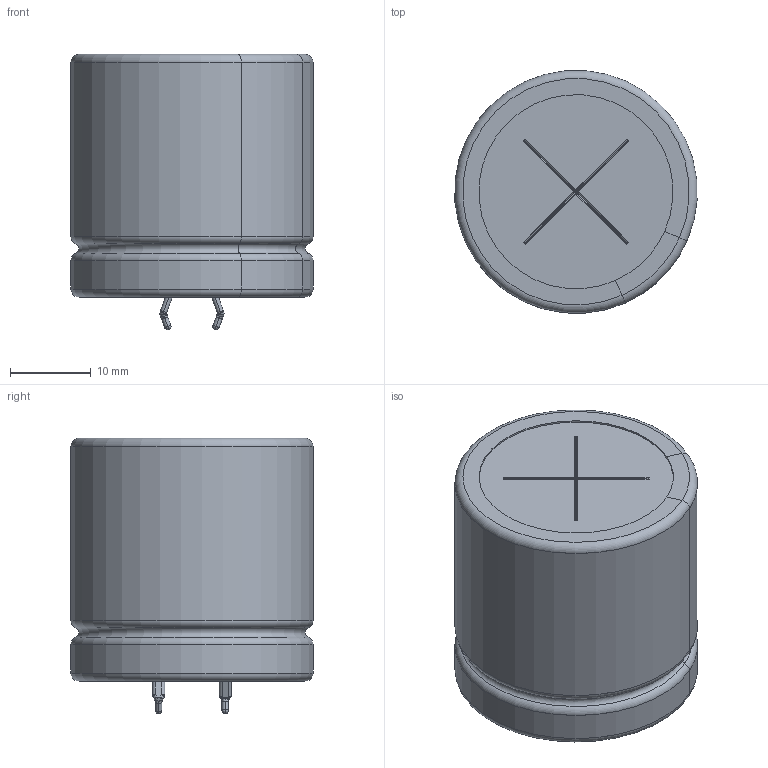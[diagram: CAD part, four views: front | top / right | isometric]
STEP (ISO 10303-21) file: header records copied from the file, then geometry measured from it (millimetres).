
FILE_DESCRIPTION(/* description */ (''),/* implementation_level */ '2;1');
FILE_NAME(/* name */ '30x30_Snap.stp',/* time_stamp */ '2017-09-11T15:54:32+09:00',/* author */ (''),/* organization */ (''),/* preprocessor_version */ 'ST-DEVELOPER v16',/* originating_system */ 'SIEMENS PLM Software NX 11.0',/* authorisation */ '');
FILE_SCHEMA (('AUTOMOTIVE_DESIGN { 1 0 10303 214 3 1 1 1 }'));
Length unit declared in the file: millimetre
Products named in the file (1): 30x30_Snap_0
Bounding box: 29.91 x 29.91 x 34.02 mm (x, y, z)
Volume: 20872.4 mm3; surface area: 10909.6 mm2
Topology: 5 solids, 5 shells, 208 faces, 523 edges, 310 vertices
Faces by surface type: cylinder 76, plane 75, torus 25, sphere 20, bspline 12
Full cylindrical faces by diameter (mm): 4 x2, 29.6 x2
Entity records: 6789 total; most frequent: CARTESIAN_POINT 1265, DIRECTION 1128, ORIENTED_EDGE 988, EDGE_CURVE 494, AXIS2_PLACEMENT_3D 437, VERTEX_POINT 310, LINE 254, VECTOR 254
